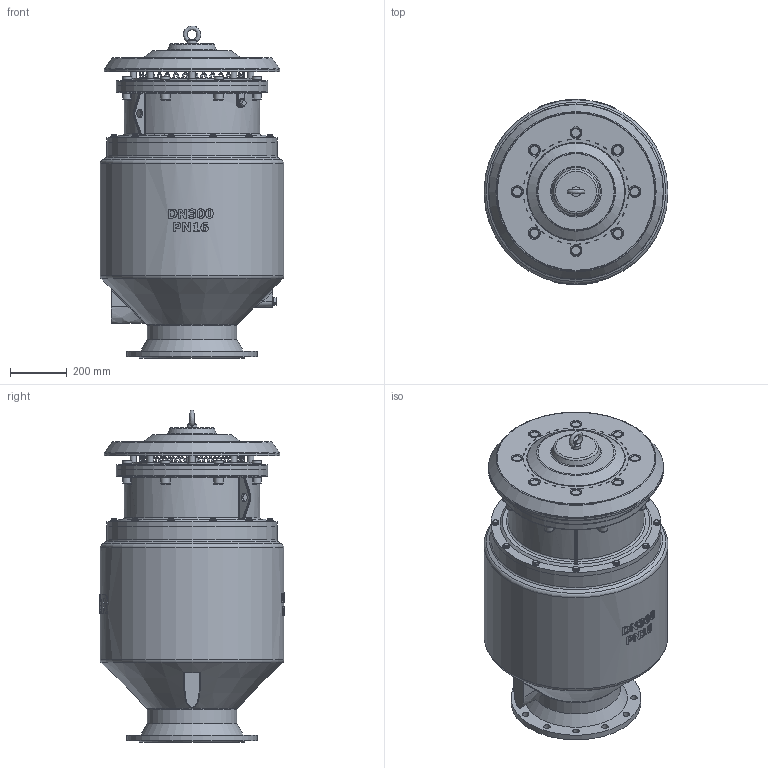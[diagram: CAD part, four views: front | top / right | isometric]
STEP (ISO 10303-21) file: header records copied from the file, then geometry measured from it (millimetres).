
FILE_DESCRIPTION(('STEP AP203'), '1');
FILE_NAME('Âîçäóøíûé êëàïàí FLOWJET SR', '', ('UNSPECIFIED'), ('UNSPECIFIED'), 'C3D Converter', 'C3D Toolkit', '');
FILE_SCHEMA(('CONFIG_CONTROL_DESIGN'));
Length unit declared in the file: millimetre
Assembly tree (78 placements, depth 2):
  (unnamed)
    (unnamed)
    (unnamed)
    (unnamed)
    (unnamed)
    (unnamed)
    (unnamed)
    (unnamed)
    (unnamed)
    (unnamed)
    (unnamed)
    (unnamed)
    (unnamed)  x8
    (unnamed)
    (unnamed)  x8
    (unnamed)  x12
    (unnamed)  x12
    (unnamed)  x8
    (unnamed)  x8
    (unnamed)  x8
    (unnamed)  x2
Bounding box: 650 x 654 x 1172.85 mm (x, y, z)
Volume: 35789130.2 mm3; surface area: 8862233.5 mm2
Topology: 79 solids, 80 shells, 2364 faces, 5880 edges, 3792 vertices
Faces by surface type: plane 805, bspline 553, cylinder 495, torus 202, extrusion 172, cone 128, sphere 9
Full cylindrical faces by diameter (mm): 9.026 x8, 10 x32, 10.5 x8, 11 x8, 11.026 x12, 12 x24, 13 x14, 16 x63, 18 x8, 20 x10, 21 x1, 21.3 x3, 22 x8, 23 x12, 24 x21, 25.6 x8, 30 x4, 32 x10, 48 x1, 82.234 x1, 292 x1, 300 x2, 316 x1, 370 x1, 372 x1, 384 x1, 410.667 x1, 416 x2, 432 x2, 436 x3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
Entity records: 152777 total; most frequent: CARTESIAN_POINT 110220, ORIENTED_EDGE 8486, DIRECTION 5930, EDGE_CURVE 4243, VERTEX_POINT 2895, AXIS2_PLACEMENT_3D 2388, EDGE_LOOP 2380, B_SPLINE_CURVE_WITH_KNOTS 2132
